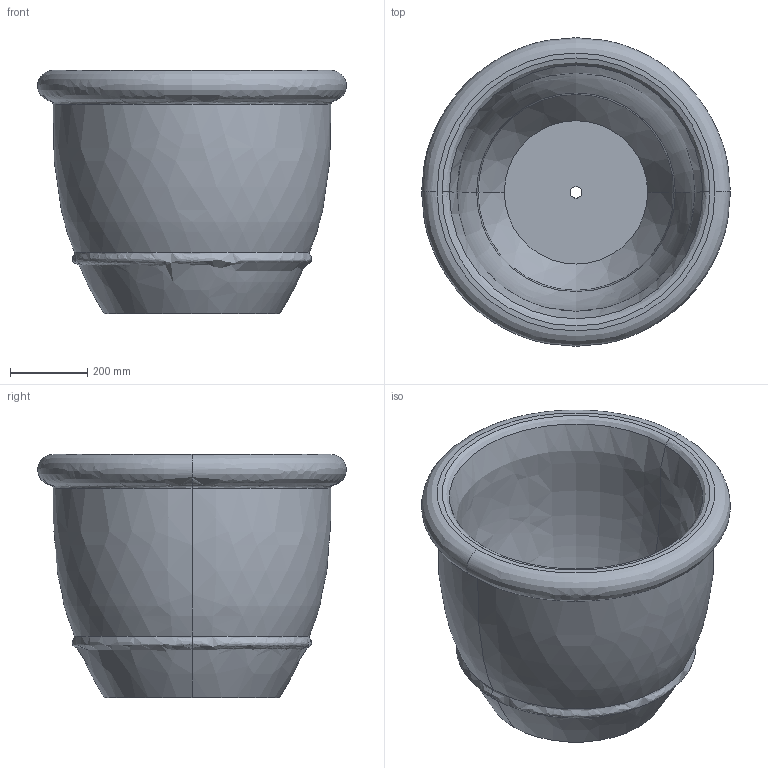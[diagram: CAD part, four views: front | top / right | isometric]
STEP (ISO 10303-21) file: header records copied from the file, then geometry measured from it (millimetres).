
FILE_DESCRIPTION(/* description */ (''),/* implementation_level */ '2;1');
FILE_NAME(/* name */ '80',/* time_stamp */ '2026-07-06T15:40:27+02:00',/* author */ (''),/* organization */ (''),/* preprocessor_version */ 'ST-DEVELOPER v19.2',/* originating_system */ 'Rhino 8.32',/* authorisation */ '');
FILE_SCHEMA (('CONFIG_CONTROL_DESIGN'));
Length unit declared in the file: millimetre
Products named in the file (1): Document
Bounding box: 799.85 x 799.72 x 630 mm (x, y, z)
Volume: 69230317.9 mm3; surface area: 2921596.9 mm2
Topology: 1 solids, 1 shells, 19 faces, 38 edges, 22 vertices
Faces by surface type: bspline 14, plane 3, cylinder 2
Entity records: 1269 total; most frequent: CARTESIAN_POINT 843, ORIENTED_EDGE 76, DIRECTION 57, EDGE_CURVE 38, AXIS2_PLACEMENT_3D 31, TRIMMED_CURVE 24, CIRCLE 24, EDGE_LOOP 22
